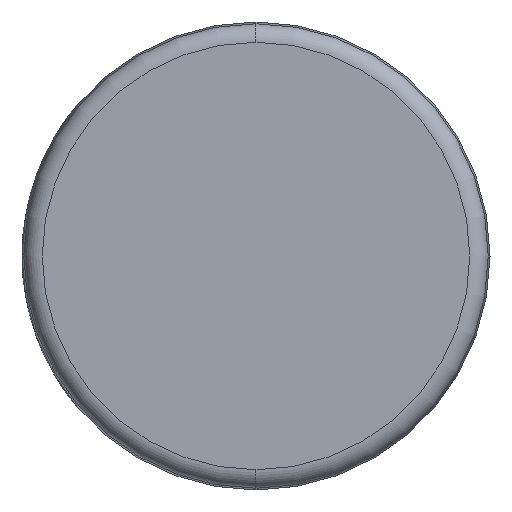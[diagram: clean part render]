
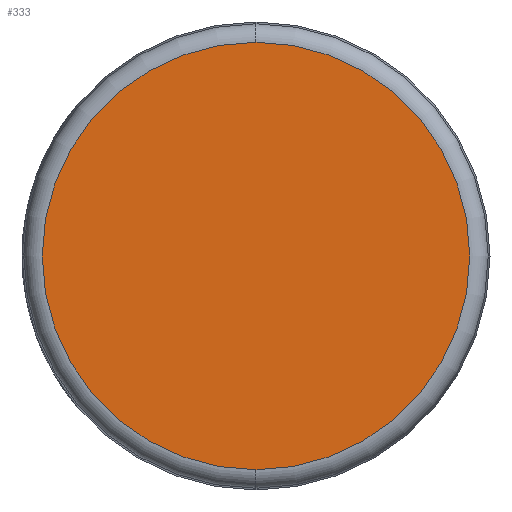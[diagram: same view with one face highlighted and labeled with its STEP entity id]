
A CAD part, left-side view. The second image highlights one B-rep face of the part: STEP entity #333.
In plain terms, the highlighted planar face has unit normal (-1, 0, 0).
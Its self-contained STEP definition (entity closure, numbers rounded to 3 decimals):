
#24 = CARTESIAN_POINT ( 'NONE',  ( 0., 0., 28.772 ) ) ;
#29 = VERTEX_POINT ( 'NONE', #695 ) ;
#67 = AXIS2_PLACEMENT_3D ( 'NONE', #257, #254, #253 ) ;
#157 = DIRECTION ( 'NONE',  ( 0., 0., -1. ) ) ;
#168 = DIRECTION ( 'NONE',  ( -1., 0., 0. ) ) ;
#198 = FACE_OUTER_BOUND ( 'NONE', #276, .T. ) ;
#206 = CARTESIAN_POINT ( 'NONE',  ( 0., 0., 0. ) ) ;
#212 = CIRCLE ( 'NONE', #432, 28.772 ) ;
#242 = VERTEX_POINT ( 'NONE', #24 ) ;
#253 = DIRECTION ( 'NONE',  ( 0., 0., -1. ) ) ;
#254 = DIRECTION ( 'NONE',  ( 1., 0., 0. ) ) ;
#257 = CARTESIAN_POINT ( 'NONE',  ( 0., 0., 0. ) ) ;
#261 = EDGE_CURVE ( 'NONE', #29, #242, #212, .T. ) ;
#262 = PLANE ( 'NONE',  #67 ) ;
#276 = EDGE_LOOP ( 'NONE', ( #646, #474 ) ) ;
#333 = ADVANCED_FACE ( 'NONE', ( #198 ), #262, .F. ) ;
#365 = EDGE_CURVE ( 'NONE', #242, #29, #427, .T. ) ;
#427 = CIRCLE ( 'NONE', #436, 28.772 ) ;
#432 = AXIS2_PLACEMENT_3D ( 'NONE', #554, #552, #546 ) ;
#436 = AXIS2_PLACEMENT_3D ( 'NONE', #206, #168, #157 ) ;
#474 = ORIENTED_EDGE ( 'NONE', *, *, #365, .T. ) ;
#546 = DIRECTION ( 'NONE',  ( 0., 0., -1. ) ) ;
#552 = DIRECTION ( 'NONE',  ( -1., 0., 0. ) ) ;
#554 = CARTESIAN_POINT ( 'NONE',  ( 0., 0., 0. ) ) ;
#646 = ORIENTED_EDGE ( 'NONE', *, *, #261, .T. ) ;
#695 = CARTESIAN_POINT ( 'NONE',  ( 0., 0., -28.772 ) ) ;
